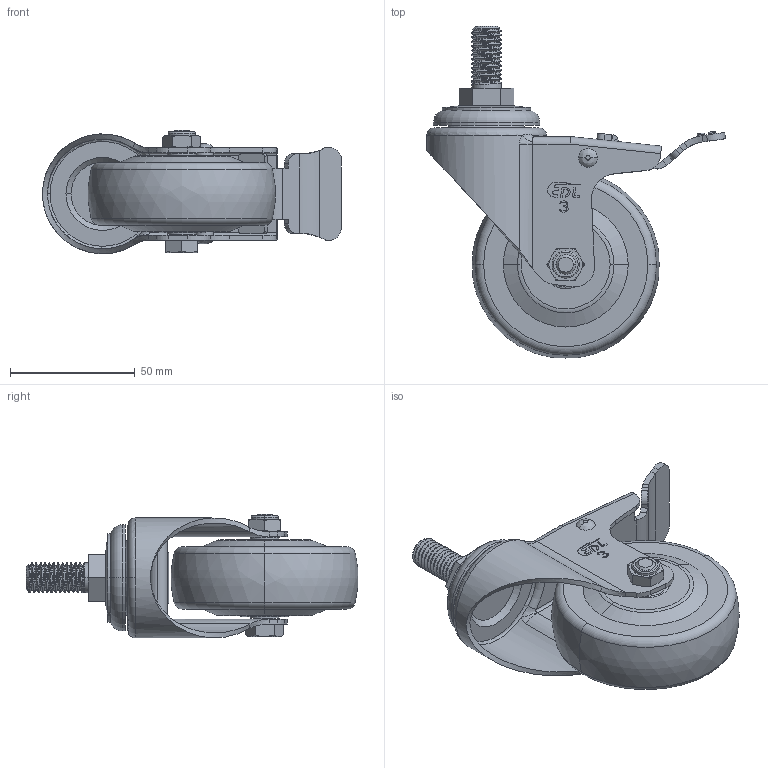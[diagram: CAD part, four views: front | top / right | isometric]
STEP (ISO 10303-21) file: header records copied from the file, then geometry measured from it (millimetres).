
FILE_DESCRIPTION((''),'2;1');
FILE_NAME('S34743L_ASM','2021-07-24T',('lenovo'),(''),'PRO/ENGINEER BY PARAMETRIC TECHNOLOGY CORPORATION, 2010280','PRO/ENGINEER BY PARAMETRIC TECHNOLOGY CORPORATION, 2010280','');
FILE_SCHEMA(('CONFIG_CONTROL_DESIGN'));
Length unit declared in the file: millimetre
Products named in the file (7): S340-23; S343-12; 363-964; S340-33; S340-34; S340-14; S34743L_ASM
Assembly tree (6 placements, depth 2):
  S34743L_ASM
    S340-23
    S343-12
    363-964
    S340-33
    S340-34
    S340-14
Bounding box: 119.62 x 132.86 x 49.49 mm (x, y, z)
Volume: 153286.6 mm3; surface area: 45421.5 mm2
Topology: 8 solids, 8 shells, 414 faces, 1035 edges, 654 vertices
Faces by surface type: plane 194, cylinder 118, bspline 40, torus 32, cone 26, sphere 4
Entity records: 17673 total; most frequent: CARTESIAN_POINT 7836, ORIENTED_EDGE 2070, DIRECTION 1929, EDGE_CURVE 1035, AXIS2_PLACEMENT_3D 669, VERTEX_POINT 654, VECTOR 591, LINE 591
